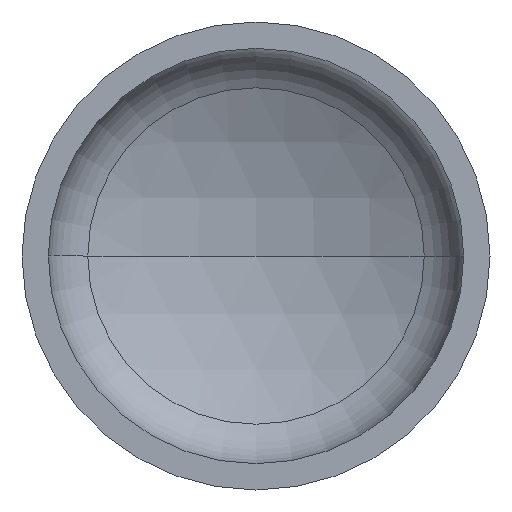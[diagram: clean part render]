
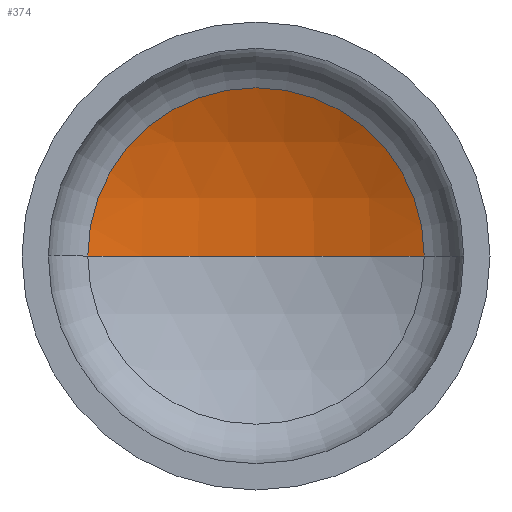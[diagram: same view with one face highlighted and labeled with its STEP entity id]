
A CAD part, front view. The second image highlights one B-rep face of the part: STEP entity #374.
In plain terms, the highlighted spherical face has radius 1280 mm.
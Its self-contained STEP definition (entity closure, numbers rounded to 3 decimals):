
#3 = AXIS2_PLACEMENT_3D ( 'NONE', #396, #386, #261 ) ;
#27 = AXIS2_PLACEMENT_3D ( 'NONE', #82, #77, #74 ) ;
#29 = EDGE_LOOP ( 'NONE', ( #96, #68, #148 ) ) ;
#34 = AXIS2_PLACEMENT_3D ( 'NONE', #246, #245, #244 ) ;
#38 = AXIS2_PLACEMENT_3D ( 'NONE', #269, #267, #288 ) ;
#64 = VERTEX_POINT ( 'NONE', #249 ) ;
#68 = ORIENTED_EDGE ( 'NONE', *, *, #178, .T. ) ;
#74 = DIRECTION ( 'NONE',  ( 1., 0., 0. ) ) ;
#77 = DIRECTION ( 'NONE',  ( 0., 0., 1. ) ) ;
#82 = CARTESIAN_POINT ( 'NONE',  ( 0., -824.662, 0. ) ) ;
#94 = CIRCLE ( 'NONE', #38, 575.072 ) ;
#96 = ORIENTED_EDGE ( 'NONE', *, *, #189, .F. ) ;
#138 = VERTEX_POINT ( 'NONE', #306 ) ;
#139 = VERTEX_POINT ( 'NONE', #197 ) ;
#148 = ORIENTED_EDGE ( 'NONE', *, *, #173, .T. ) ;
#162 = FACE_OUTER_BOUND ( 'NONE', #29, .T. ) ;
#173 = EDGE_CURVE ( 'NONE', #138, #64, #94, .T. ) ;
#178 = EDGE_CURVE ( 'NONE', #139, #138, #255, .T. ) ;
#181 = CIRCLE ( 'NONE', #27, 1280. ) ;
#189 = EDGE_CURVE ( 'NONE', #139, #64, #181, .T. ) ;
#197 = CARTESIAN_POINT ( 'NONE',  ( 0., 455.338, 0. ) ) ;
#244 = DIRECTION ( 'NONE',  ( -1., 0., 0. ) ) ;
#245 = DIRECTION ( 'NONE',  ( 0., 0., -1. ) ) ;
#246 = CARTESIAN_POINT ( 'NONE',  ( 0., -824.662, 0. ) ) ;
#249 = CARTESIAN_POINT ( 'NONE',  ( -575.072, 318.881, 0. ) ) ;
#255 = CIRCLE ( 'NONE', #34, 1280. ) ;
#261 = DIRECTION ( 'NONE',  ( -1., 0., 0. ) ) ;
#267 = DIRECTION ( 'NONE',  ( 0., -1., 0. ) ) ;
#269 = CARTESIAN_POINT ( 'NONE',  ( 0., 318.881, 0. ) ) ;
#288 = DIRECTION ( 'NONE',  ( 1., 0., 0. ) ) ;
#306 = CARTESIAN_POINT ( 'NONE',  ( 575.072, 318.881, 0. ) ) ;
#340 = SPHERICAL_SURFACE ( 'NONE', #3, 1280. ) ;
#374 = ADVANCED_FACE ( 'NONE', ( #162 ), #340, .F. ) ;
#386 = DIRECTION ( 'NONE',  ( 0., 0., -1. ) ) ;
#396 = CARTESIAN_POINT ( 'NONE',  ( 0., -824.662, 0. ) ) ;
